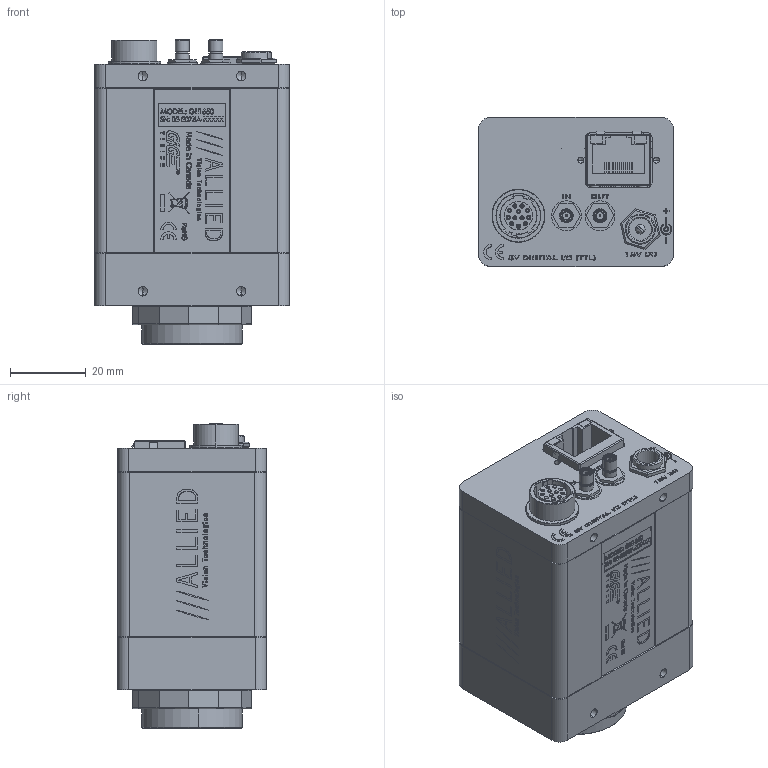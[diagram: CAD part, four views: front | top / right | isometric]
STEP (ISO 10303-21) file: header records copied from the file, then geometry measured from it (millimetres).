
FILE_DESCRIPTION (( 'STEP AP214' ), '1' );
FILE_NAME ('GE1650.STEP', '2013-07-31T21:21:55', ( '' ), ( '' ), 'SwSTEP 2.0', 'SolidWorks 2013', '' );
FILE_SCHEMA (( 'AUTOMOTIVE_DESIGN' ));
Length unit declared in the file: millimetre
Products named in the file (34): 140034-SWITCHCRAFT P10149; 110036B GE COVER EXTRUDED SHORT WITH LOGO_Finished; 270006-JUMPER WIRE 18MM LONG; 140007-screw socket head cap #4-40x2; 110033B-C GE BACK PLATE; 140002-KEYSTONE 349; GE1650; 260010-HIROSE HR10A-10R-12SB NUT; 260014-SWITCHCRAFT PC712A NUT; 260009-AMPHENOL 903-406J-51R; 100098A - GE1650M FRONT ASSY; 140000-AMPHENOL 903-10408-1; 110003AC-CV CMOUNT RING; 100000AA-CV SMB GROUNDING ASSEMBLY; 220103-KODAK KAI-2020M; 270006-JUMPER WIRE MODIFIED; KODAK KAI-2020 BODY; 140001-AMPHENOL 903-10409-1; KODAK KAI-2020 WINDOW; 260014-SWITCHCRAFT PC712A; 110046A-GE KODAK 2M FRONT PLATE; 260010-HIROSE HR10A-10R-12SB; 110031A-B EC-CCD LOCKING RING; 140015-screw pan head phillips 4-40 x 0.1875; 110053AA-GE KODAK 2M CCD DUST SHIELD GASKET; 200031B-A GE INTERFACE PCB ASSY; 100137A - GE CAMERA BACK ASSEMBLY - for GE KODAK 1M2M; 260029 BELFUSE 0826-1C1T-23; 100051B - GE BACKPLATE ASSY; 140008-washer spring lock #4; 260010-HIROSE HR10A-10R-12SB WASHER; 740031B-GE SERIES LABEL; 140034-SWITCHCRAFT P10149 WITH WIRE; 740051A-A GE1650M LABEL PRINT
Assembly tree (47 placements, depth 5):
  GE1650
    140007-screw socket head cap #4-40x2  x4
    110036B GE COVER EXTRUDED SHORT WITH LOGO_Finished
    740051A-A GE1650M LABEL PRINT
    740031B-GE SERIES LABEL
    140008-washer spring lock #4  x4
    100137A - GE CAMERA BACK ASSEMBLY - for GE KODAK 1M2M
      140008-washer spring lock #4  x2
      200031B-A GE INTERFACE PCB ASSY
        260029 BELFUSE 0826-1C1T-23
      140015-screw pan head phillips 4-40 x 0.1875
      100051B - GE BACKPLATE ASSY
        260010-HIROSE HR10A-10R-12SB
        260014-SWITCHCRAFT PC712A
        100000AA-CV SMB GROUNDING ASSEMBLY  x2
          140001-AMPHENOL 903-10409-1
          270006-JUMPER WIRE MODIFIED
        140000-AMPHENOL 903-10408-1  x2
        260009-AMPHENOL 903-406J-51R  x2
        260014-SWITCHCRAFT PC712A NUT
        260010-HIROSE HR10A-10R-12SB NUT
        140002-KEYSTONE 349  x4
        110033B-C GE BACK PLATE
        140034-SWITCHCRAFT P10149 WITH WIRE
          270006-JUMPER WIRE 18MM LONG
          140034-SWITCHCRAFT P10149
        260010-HIROSE HR10A-10R-12SB WASHER
    100098A - GE1650M FRONT ASSY
      110053AA-GE KODAK 2M CCD DUST SHIELD GASKET
      110031A-B EC-CCD LOCKING RING
      110046A-GE KODAK 2M FRONT PLATE
      220103-KODAK KAI-2020M
        KODAK KAI-2020 WINDOW
        KODAK KAI-2020 BODY
      110003AC-CV CMOUNT RING
Bounding box: 51.56 x 39.37 x 80.57 mm (x, y, z)
Volume: 47923 mm3; surface area: 67634.9 mm2
Topology: 72 solids, 72 shells, 4033 faces, 10314 edges, 6713 vertices
Faces by surface type: plane 2332, bspline 886, cylinder 577, cone 238
Entity records: 189352 total; most frequent: CARTESIAN_POINT 58225, ORIENTED_EDGE 19482, DIRECTION 15259, EDGE_CURVE 9741, LINE 6801, VECTOR 6801, VERTEX_POINT 6371, AXIS2_PLACEMENT_3D 4229
